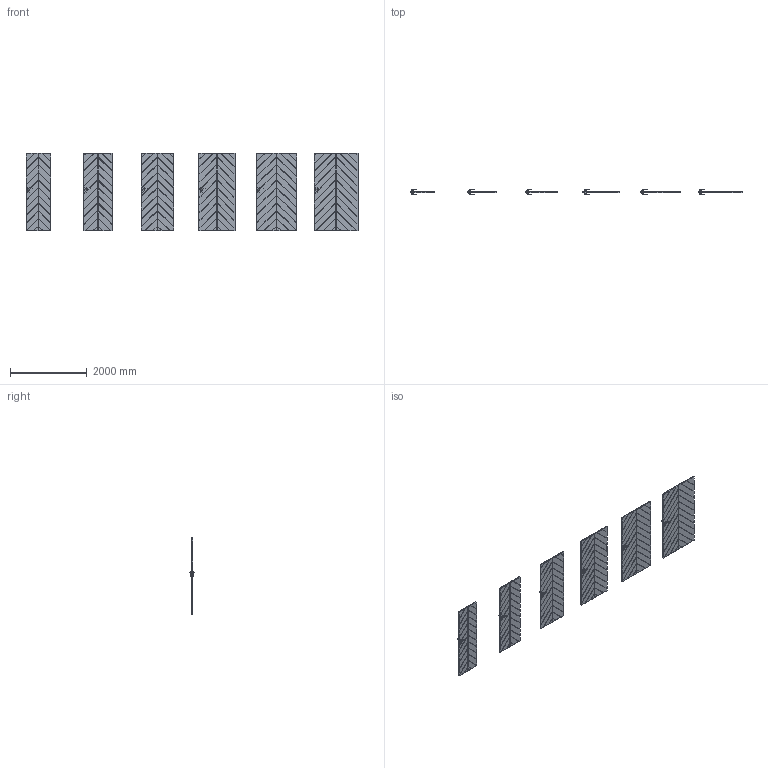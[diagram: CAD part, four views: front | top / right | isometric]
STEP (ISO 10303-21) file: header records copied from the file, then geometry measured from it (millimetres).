
FILE_DESCRIPTION(/* description */ (''),/* implementation_level */ '2;1');
FILE_NAME(/* name */ '049695_B_1-Skrzydło VECTOR J_ polska norma _PN__ odwrotna przylga..stp',/* time_stamp */ '2024-02-16T14:44:39+01:00',/* author */ (''),/* organization */ (''),/* preprocessor_version */ 'ST-DEVELOPER v16',/* originating_system */ 'SIEMENS PLM Software NX 11.0',/* authorisation */ '');
FILE_SCHEMA (('AUTOMOTIVE_DESIGN { 1 0 10303 214 3 1 1 1 }'));
Products named in the file (1): bkni9DA808DAyb9w
Bounding box: 8639 x 153.27 x 2027 mm (x, y, z)
Volume: 421241749.2 mm3; surface area: 23364354.1 mm2
Topology: 30 solids, 30 shells, 4000 faces, 10332 edges, 6272 vertices
Faces by surface type: cylinder 1964, plane 1676, bspline 192, sphere 168
Entity records: 126260 total; most frequent: CARTESIAN_POINT 28861, DIRECTION 20582, ORIENTED_EDGE 20328, EDGE_CURVE 10164, AXIS2_PLACEMENT_3D 6969, LINE 6644, VECTOR 6644, VERTEX_POINT 6272
